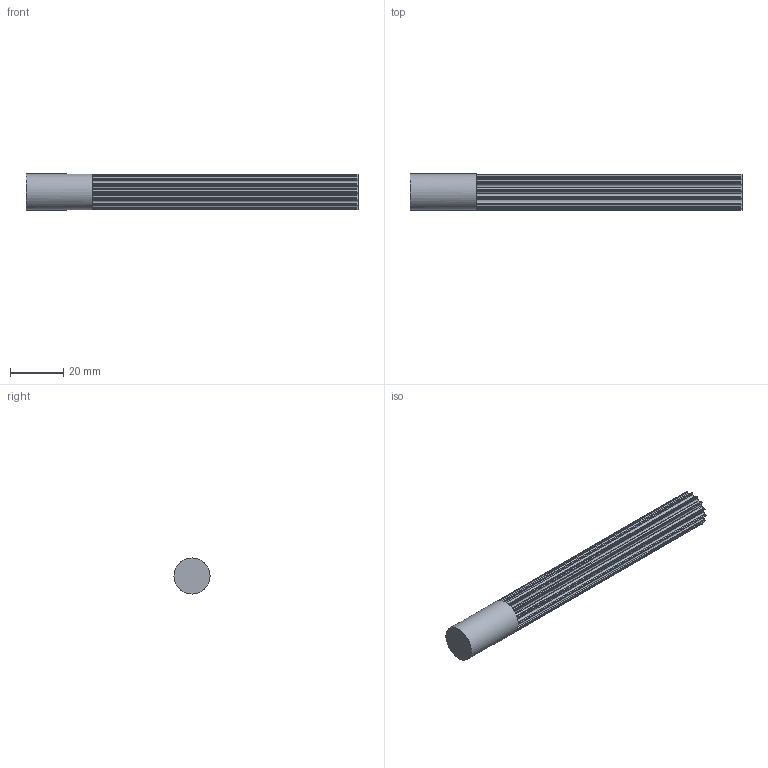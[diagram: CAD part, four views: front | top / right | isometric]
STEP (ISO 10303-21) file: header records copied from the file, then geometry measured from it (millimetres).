
FILE_DESCRIPTION( ( 'STEP AP214' ), '1' );
FILE_NAME( 'C:/Users/StangenbergN/Desktop/Steps Zahnriemenräder/K166_HTD-Zahnwellen/17091500.stp', '2019-06-06T09:33:29', ( '' ), ( '' ), ' ', 'PARTsolutions', ' ' );
FILE_SCHEMA( ( 'AUTOMOTIVE_DESIGN { 1 0 10303 214 1 1 1 1 }' ) );
Length unit declared in the file: millimetre
Products named in the file (1): _17091500
Bounding box: 125 x 13.56 x 13.56 mm (x, y, z)
Volume: 14952.1 mm3; surface area: 7110 mm2
Topology: 1 solids, 1 shells, 123 faces, 363 edges, 242 vertices
Faces by surface type: plane 62, cylinder 61
Full cylindrical faces by diameter (mm): 13.56 x1
Entity records: 5154 total; most frequent: DIRECTION 760, CARTESIAN_POINT 726, ORIENTED_EDGE 722, EDGE_CURVE 361, AXIS2_PLACEMENT_3D 275, VERTEX_POINT 241, LINE 210, VECTOR 210
